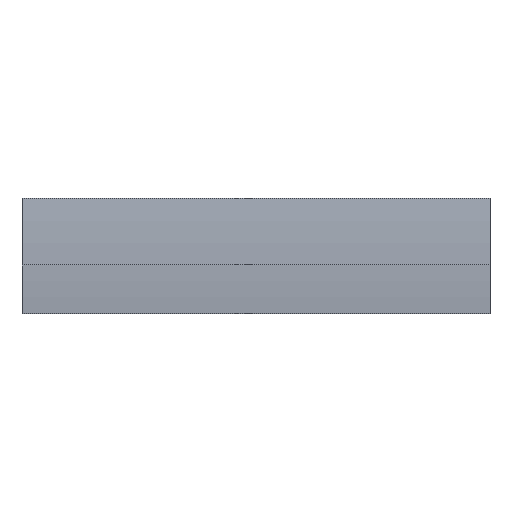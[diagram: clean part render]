
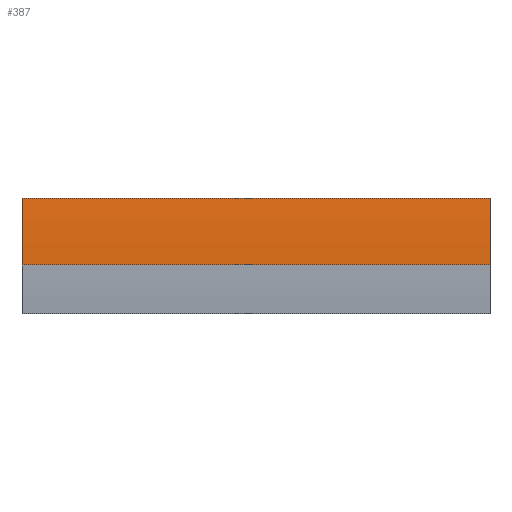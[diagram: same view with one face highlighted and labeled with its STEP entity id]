
A CAD part, top view. The second image highlights one B-rep face of the part: STEP entity #387.
In plain terms, the highlighted cylindrical face has radius 60 mm (diameter 120 mm), a partial arc.
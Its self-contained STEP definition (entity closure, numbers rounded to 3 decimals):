
#1 = VERTEX_POINT ( 'NONE', #151 ) ;
#28 = CARTESIAN_POINT ( 'NONE',  ( 50., 5.4, 4.65 ) ) ;
#48 = DIRECTION ( 'NONE',  ( -1., 0., 0. ) ) ;
#84 = ORIENTED_EDGE ( 'NONE', *, *, #86, .T. ) ;
#86 = EDGE_CURVE ( 'NONE', #986, #859, #553, .T. ) ;
#113 = DIRECTION ( 'NONE',  ( -1., 0., 0. ) ) ;
#144 = CARTESIAN_POINT ( 'NONE',  ( 50., -1.72, -54.926 ) ) ;
#151 = CARTESIAN_POINT ( 'NONE',  ( 0., -1.72, 5.074 ) ) ;
#152 = CARTESIAN_POINT ( 'NONE',  ( 0., 5.4, 4.65 ) ) ;
#175 = DIRECTION ( 'NONE',  ( 1., 0., 0. ) ) ;
#211 = EDGE_CURVE ( 'NONE', #533, #1, #518, .T. ) ;
#222 = VECTOR ( 'NONE', #113, 1000. ) ;
#228 = DIRECTION ( 'NONE',  ( 0., 0., 1. ) ) ;
#266 = DIRECTION ( 'NONE',  ( 1., 0., 0. ) ) ;
#302 = VECTOR ( 'NONE', #48, 1000. ) ;
#378 = DIRECTION ( 'NONE',  ( -1., 0., 0. ) ) ;
#380 = DIRECTION ( 'NONE',  ( 0., 0., -1. ) ) ;
#383 = FACE_OUTER_BOUND ( 'NONE', #839, .T. ) ;
#387 = ADVANCED_FACE ( 'NONE', ( #383 ), #838, .T. ) ;
#401 = AXIS2_PLACEMENT_3D ( 'NONE', #774, #175, #380 ) ;
#492 = AXIS2_PLACEMENT_3D ( 'NONE', #144, #378, #228 ) ;
#518 = LINE ( 'NONE', #662, #302 ) ;
#533 = VERTEX_POINT ( 'NONE', #702 ) ;
#535 = CARTESIAN_POINT ( 'NONE',  ( 0., -1.72, -54.926 ) ) ;
#553 = LINE ( 'NONE', #868, #222 ) ;
#585 = ORIENTED_EDGE ( 'NONE', *, *, #211, .F. ) ;
#613 = CIRCLE ( 'NONE', #401, 60. ) ;
#647 = AXIS2_PLACEMENT_3D ( 'NONE', #535, #266, #791 ) ;
#662 = CARTESIAN_POINT ( 'NONE',  ( 50., -1.72, 5.074 ) ) ;
#664 = ORIENTED_EDGE ( 'NONE', *, *, #904, .T. ) ;
#702 = CARTESIAN_POINT ( 'NONE',  ( 50., -1.72, 5.074 ) ) ;
#759 = ORIENTED_EDGE ( 'NONE', *, *, #819, .F. ) ;
#774 = CARTESIAN_POINT ( 'NONE',  ( 50., -1.72, -54.926 ) ) ;
#787 = CIRCLE ( 'NONE', #647, 60. ) ;
#791 = DIRECTION ( 'NONE',  ( 0., 0., -1. ) ) ;
#819 = EDGE_CURVE ( 'NONE', #986, #533, #613, .T. ) ;
#838 = CYLINDRICAL_SURFACE ( 'NONE', #492, 60. ) ;
#839 = EDGE_LOOP ( 'NONE', ( #585, #759, #84, #664 ) ) ;
#859 = VERTEX_POINT ( 'NONE', #152 ) ;
#868 = CARTESIAN_POINT ( 'NONE',  ( 50., 5.4, 4.65 ) ) ;
#904 = EDGE_CURVE ( 'NONE', #859, #1, #787, .T. ) ;
#986 = VERTEX_POINT ( 'NONE', #28 ) ;
